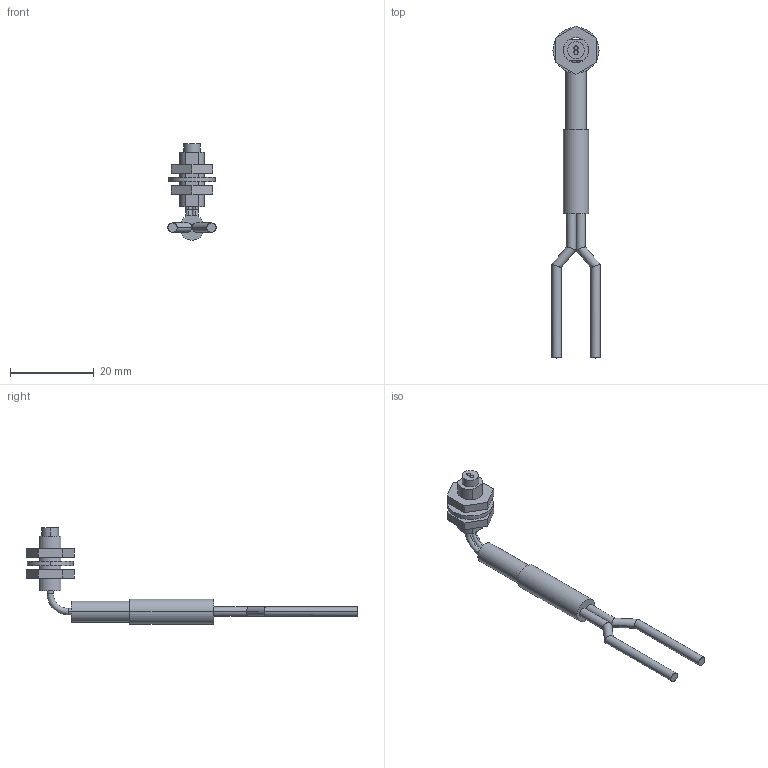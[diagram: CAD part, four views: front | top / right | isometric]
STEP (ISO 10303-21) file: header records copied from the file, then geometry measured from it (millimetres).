
FILE_DESCRIPTION (( 'STEP AP203' ), '1' );
FILE_NAME ('FD-R80.STEP', '2005-09-04T10:16:57', ( '川島良英' ), ( ' ' ), 'SwSTEP 2.0', 'SolidWorks 2004251', '' );
FILE_SCHEMA (( 'CONFIG_CONTROL_DESIGN' ));
Length unit declared in the file: millimetre
Products named in the file (1): FD-R80
Bounding box: 11.49 x 79.25 x 23 mm (x, y, z)
Volume: 1804.6 mm3; surface area: 2176.9 mm2
Topology: 5 solids, 5 shells, 77 faces, 165 edges, 106 vertices
Faces by surface type: cylinder 41, plane 32, torus 4
Entity records: 2178 total; most frequent: DIRECTION 387, CARTESIAN_POINT 373, ORIENTED_EDGE 330, EDGE_CURVE 165, AXIS2_PLACEMENT_3D 152, VERTEX_POINT 106, EDGE_LOOP 91, VECTOR 83
